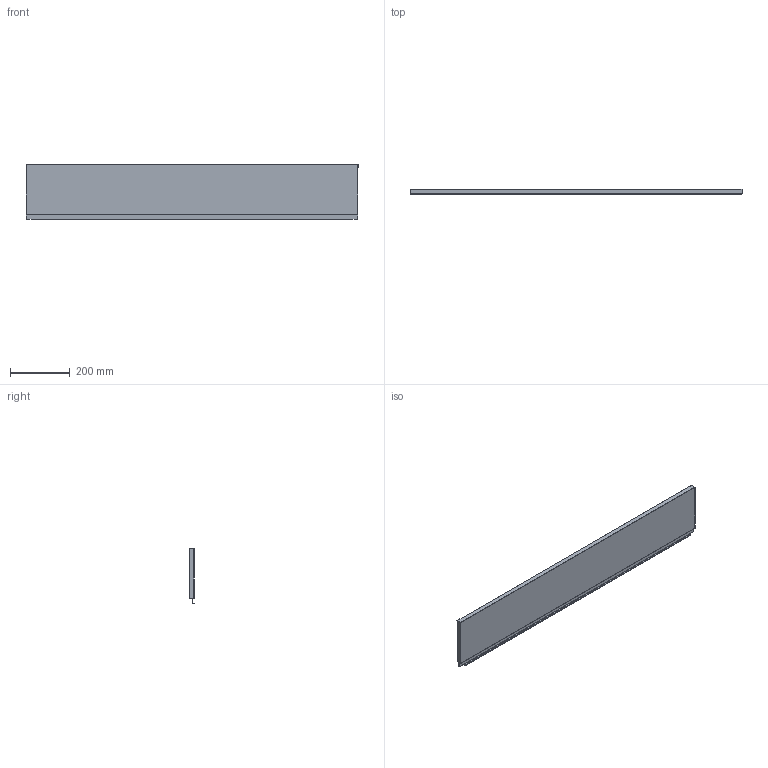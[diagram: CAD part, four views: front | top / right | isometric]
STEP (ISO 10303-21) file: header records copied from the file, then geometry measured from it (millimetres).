
FILE_DESCRIPTION (( 'STEP AP214' ), '1' );
FILE_NAME ('_STRW_H186_KAB_1200.step', '2010-08-24T14:40:30', ( 'grass' ), ( '' ), 'SwSTEP 2.0', 'SolidWorks 2009', '' );
FILE_SCHEMA (( 'AUTOMOTIVE_DESIGN' ));
Length unit declared in the file: millimetre
Products named in the file (1): _STRW_H186_KAB_1200
Bounding box: 1110 x 17 x 186.14 mm (x, y, z)
Volume: 194247.9 mm3; surface area: 487815.2 mm2
Topology: 1 solids, 1 shells, 76 faces, 214 edges, 140 vertices
Faces by surface type: plane 54, cylinder 22
Entity records: 2472 total; most frequent: CARTESIAN_POINT 431, ORIENTED_EDGE 428, DIRECTION 412, EDGE_CURVE 214, LINE 170, VECTOR 170, VERTEX_POINT 140, AXIS2_PLACEMENT_3D 121
